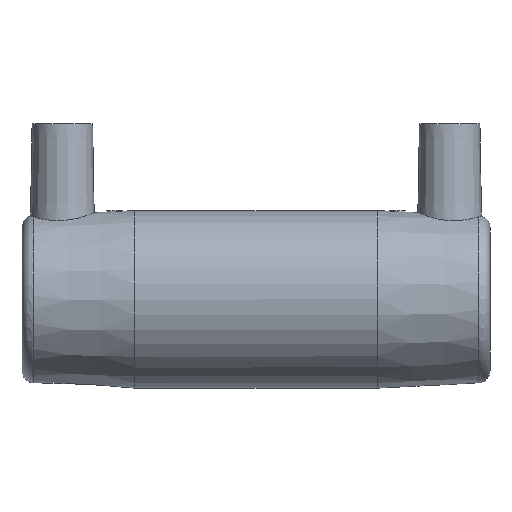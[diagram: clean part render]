
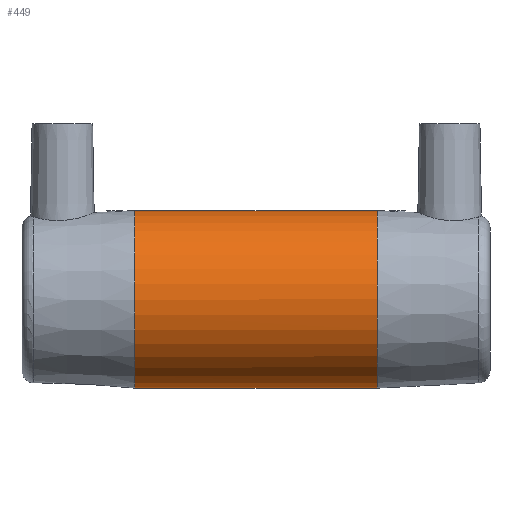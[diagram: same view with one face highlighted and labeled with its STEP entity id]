
A CAD part, front view. The second image highlights one B-rep face of the part: STEP entity #449.
In plain terms, the highlighted cylindrical face has radius 22 mm (diameter 44 mm), a full revolution.
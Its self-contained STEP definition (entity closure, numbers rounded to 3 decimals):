
#83=CIRCLE('',#513,22.);
#86=CIRCLE('',#519,22.);
#145=ORIENTED_EDGE('',*,*,#211,.T.);
#146=ORIENTED_EDGE('',*,*,#210,.F.);
#147=ORIENTED_EDGE('',*,*,#215,.T.);
#210=EDGE_CURVE('',#255,#255,#83,.T.);
#211=EDGE_CURVE('',#256,#256,#276,.T.);
#215=EDGE_CURVE('',#260,#260,#86,.T.);
#255=VERTEX_POINT('',#855);
#256=VERTEX_POINT('',#1006);
#260=VERTEX_POINT('',#1021);
#276=B_SPLINE_CURVE_WITH_KNOTS('',3,(#967,#968,#969,#970,#971,#972,#973,
#974,#975,#976,#977,#978,#979,#980,#981,#982,#983,#984,#985,#986,#987,#988,
#989,#990,#991,#992,#993,#994,#995,#996,#997,#998,#999,#1000,#1001,#1002,
#1003,#1004,#1005),.UNSPECIFIED.,.T.,.F.,(1,1,1,1,1,1,1,1,1,1,1,1,1,1,1,
1,1,1,1,1,1,1,1,1,1,1,1,1,1,1,1,1,1,1,1,1,1,1,1,1,1,1,1),(-0.01,
-0.008,-0.004,0.,0.004,0.008,
0.012,0.016,0.02,0.024,
0.028,0.032,0.036,0.04,
0.044,0.048,0.052,0.054,
0.056,0.06,0.062,0.064,
0.069,0.071,0.073,0.077,
0.081,0.085,0.089,0.093,
0.097,0.101,0.105,0.109,
0.113,0.117,0.119,0.121,
0.125,0.129,0.133,0.137,
0.141),.UNSPECIFIED.);
#325=EDGE_LOOP('',(#145));
#326=EDGE_LOOP('',(#146));
#327=EDGE_LOOP('',(#147));
#393=FACE_BOUND('',#325,.T.);
#394=FACE_BOUND('',#326,.T.);
#395=FACE_BOUND('',#327,.T.);
#423=CYLINDRICAL_SURFACE('',#518,22.);
#449=ADVANCED_FACE('',(#393,#394,#395),#423,.T.);
#513=AXIS2_PLACEMENT_3D('',#854,#617,#618);
#518=AXIS2_PLACEMENT_3D('',#1019,#627,#628);
#519=AXIS2_PLACEMENT_3D('',#1020,#629,#630);
#617=DIRECTION('',(-1.,0.,0.));
#618=DIRECTION('',(0.,0.,1.));
#627=DIRECTION('',(-1.,0.,0.));
#628=DIRECTION('',(0.,0.,1.));
#629=DIRECTION('',(-1.,0.,0.));
#630=DIRECTION('',(0.,0.,1.));
#854=CARTESIAN_POINT('',(-30.,0.,0.));
#855=CARTESIAN_POINT('',(-30.,0.,22.));
#967=CARTESIAN_POINT('',(19.667,21.745,-4.043));
#968=CARTESIAN_POINT('',(20.166,22.127,0.004));
#969=CARTESIAN_POINT('',(19.671,21.747,4.026));
#970=CARTESIAN_POINT('',(18.311,20.721,7.686));
#971=CARTESIAN_POINT('',(16.286,19.24,10.837));
#972=CARTESIAN_POINT('',(13.776,17.504,13.435));
#973=CARTESIAN_POINT('',(10.881,15.679,15.504));
#974=CARTESIAN_POINT('',(7.624,13.939,17.063));
#975=CARTESIAN_POINT('',(3.978,12.544,18.087));
#976=CARTESIAN_POINT('',(-0.03,11.966,18.459));
#977=CARTESIAN_POINT('',(-4.025,12.558,18.077));
#978=CARTESIAN_POINT('',(-7.661,13.957,17.048));
#979=CARTESIAN_POINT('',(-10.904,15.692,15.49));
#980=CARTESIAN_POINT('',(-13.807,17.525,13.409));
#981=CARTESIAN_POINT('',(-15.886,18.964,11.245));
#982=CARTESIAN_POINT('',(-17.298,19.981,9.262));
#983=CARTESIAN_POINT('',(-18.548,20.899,7.055));
#984=CARTESIAN_POINT('',(-19.443,21.575,4.641));
#985=CARTESIAN_POINT('',(-19.92,21.939,2.002));
#986=CARTESIAN_POINT('',(-20.08,22.062,-0.643));
#987=CARTESIAN_POINT('',(-19.756,21.813,-3.336));
#988=CARTESIAN_POINT('',(-19.008,21.247,-5.809));
#989=CARTESIAN_POINT('',(-17.986,20.484,-8.19));
#990=CARTESIAN_POINT('',(-16.312,19.259,-10.803));
#991=CARTESIAN_POINT('',(-13.794,17.516,-13.42));
#992=CARTESIAN_POINT('',(-10.911,15.697,-15.485));
#993=CARTESIAN_POINT('',(-7.646,13.949,-17.055));
#994=CARTESIAN_POINT('',(-4.004,12.551,-18.082));
#995=CARTESIAN_POINT('',(0.005,11.965,-18.459));
#996=CARTESIAN_POINT('',(4.005,12.552,-18.081));
#997=CARTESIAN_POINT('',(7.641,13.947,-17.056));
#998=CARTESIAN_POINT('',(10.893,15.686,-15.496));
#999=CARTESIAN_POINT('',(13.792,17.515,-13.422));
#1000=CARTESIAN_POINT('',(15.879,18.959,-11.253));
#1001=CARTESIAN_POINT('',(17.291,19.975,-9.273));
#1002=CARTESIAN_POINT('',(18.539,20.893,-7.074));
#1003=CARTESIAN_POINT('',(19.667,21.745,-4.043));
#1004=CARTESIAN_POINT('',(20.166,22.127,0.004));
#1005=CARTESIAN_POINT('',(19.671,21.747,4.026));
#1006=CARTESIAN_POINT('',(20.,22.,0.));
#1019=CARTESIAN_POINT('',(-60.,0.,0.));
#1020=CARTESIAN_POINT('',(30.,0.,0.));
#1021=CARTESIAN_POINT('',(30.,0.,22.));
